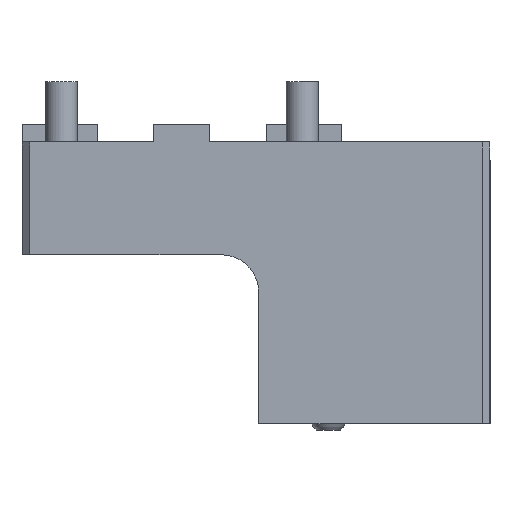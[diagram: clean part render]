
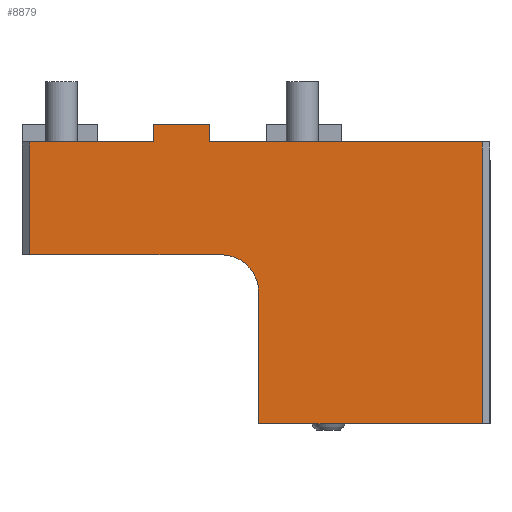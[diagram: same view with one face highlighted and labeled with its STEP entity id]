
A CAD part, front view. The second image highlights one B-rep face of the part: STEP entity #8879.
In plain terms, the highlighted planar face has unit normal (0, -1, 0).
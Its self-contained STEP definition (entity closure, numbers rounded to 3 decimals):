
#4046=CIRCLE('',#8453,10.);
#4342=ORIENTED_EDGE('',*,*,#5877,.T.);
#4343=ORIENTED_EDGE('',*,*,#5878,.F.);
#4344=ORIENTED_EDGE('',*,*,#5879,.F.);
#4345=ORIENTED_EDGE('',*,*,#5850,.T.);
#4346=ORIENTED_EDGE('',*,*,#5880,.F.);
#4347=ORIENTED_EDGE('',*,*,#5872,.F.);
#4348=ORIENTED_EDGE('',*,*,#5881,.T.);
#4349=ORIENTED_EDGE('',*,*,#5882,.F.);
#4350=ORIENTED_EDGE('',*,*,#5757,.T.);
#4351=ORIENTED_EDGE('',*,*,#5883,.T.);
#4352=ORIENTED_EDGE('',*,*,#5773,.T.);
#4922=VECTOR('',#6679,1.);
#4933=VECTOR('',#6704,1.);
#4992=VECTOR('',#6833,1.);
#5013=VECTOR('',#6876,1.);
#5016=VECTOR('',#6885,1.);
#5017=VECTOR('',#6886,1.);
#5018=VECTOR('',#6887,1.);
#5019=VECTOR('',#6888,1.);
#5020=VECTOR('',#6891,1.);
#5021=VECTOR('',#6892,1.);
#5201=LINE('',#7584,#4922);
#5212=LINE('',#7617,#4933);
#5271=LINE('',#7768,#4992);
#5292=LINE('',#7812,#5013);
#5295=LINE('',#7821,#5016);
#5296=LINE('',#7823,#5017);
#5297=LINE('',#7824,#5018);
#5298=LINE('',#7825,#5019);
#5299=LINE('',#7828,#5020);
#5300=LINE('',#7829,#5021);
#5478=VERTEX_POINT('',#7581);
#5479=VERTEX_POINT('',#7583);
#5493=VERTEX_POINT('',#7614);
#5494=VERTEX_POINT('',#7616);
#5550=VERTEX_POINT('',#7765);
#5551=VERTEX_POINT('',#7767);
#5562=VERTEX_POINT('',#7810);
#5563=VERTEX_POINT('',#7811);
#5566=VERTEX_POINT('',#7820);
#5567=VERTEX_POINT('',#7822);
#5568=VERTEX_POINT('',#7826);
#5757=EDGE_CURVE('',#5479,#5478,#5201,.T.);
#5773=EDGE_CURVE('',#5494,#5493,#5212,.T.);
#5850=EDGE_CURVE('',#5551,#5550,#5271,.T.);
#5872=EDGE_CURVE('',#5562,#5563,#5292,.T.);
#5877=EDGE_CURVE('',#5493,#5566,#5295,.T.);
#5878=EDGE_CURVE('',#5567,#5566,#5296,.T.);
#5879=EDGE_CURVE('',#5551,#5567,#5297,.T.);
#5880=EDGE_CURVE('',#5563,#5550,#5298,.T.);
#5881=EDGE_CURVE('',#5562,#5568,#4046,.T.);
#5882=EDGE_CURVE('',#5479,#5568,#5299,.T.);
#5883=EDGE_CURVE('',#5478,#5494,#5300,.T.);
#6175=EDGE_LOOP('',(#4342,#4343,#4344,#4345,#4346,#4347,#4348,#4349,#4350,
#4351,#4352));
#6430=FACE_BOUND('',#6175,.T.);
#6679=DIRECTION('',(59.5,0.,0.));
#6704=DIRECTION('',(-72.5,0.,0.));
#6833=DIRECTION('',(-33.,0.,0.));
#6876=DIRECTION('',(-51.,0.,0.));
#6883=DIRECTION('',(0.,-1.,0.));
#6884=DIRECTION('',(-1.,0.,0.));
#6885=DIRECTION('',(0.,0.,4.75));
#6886=DIRECTION('',(15.,0.,0.));
#6887=DIRECTION('',(0.,0.,4.75));
#6888=DIRECTION('',(0.,0.,30.));
#6889=DIRECTION('',(0.,1.,0.));
#6890=DIRECTION('',(0.,0.,-10.));
#6891=DIRECTION('',(0.,0.,35.));
#6892=DIRECTION('',(0.,0.,75.));
#7581=CARTESIAN_POINT('',(80.,-42.5,-64.));
#7583=CARTESIAN_POINT('',(20.5,-42.5,-64.));
#7584=CARTESIAN_POINT('',(20.5,-42.5,-64.));
#7614=CARTESIAN_POINT('',(7.5,-42.5,11.));
#7616=CARTESIAN_POINT('',(80.,-42.5,11.));
#7617=CARTESIAN_POINT('',(80.,-42.5,11.));
#7765=CARTESIAN_POINT('',(-40.5,-42.5,11.));
#7767=CARTESIAN_POINT('',(-7.5,-42.5,11.));
#7768=CARTESIAN_POINT('',(-7.5,-42.5,11.));
#7810=CARTESIAN_POINT('',(10.5,-42.5,-19.));
#7811=CARTESIAN_POINT('',(-40.5,-42.5,-19.));
#7812=CARTESIAN_POINT('',(10.5,-42.5,-19.));
#7819=CARTESIAN_POINT('',(7.5,-42.5,6.));
#7820=CARTESIAN_POINT('',(7.5,-42.5,15.75));
#7821=CARTESIAN_POINT('',(7.5,-42.5,11.));
#7822=CARTESIAN_POINT('',(-7.5,-42.5,15.75));
#7823=CARTESIAN_POINT('',(-7.5,-42.5,15.75));
#7824=CARTESIAN_POINT('',(-7.5,-42.5,11.));
#7825=CARTESIAN_POINT('',(-40.5,-42.5,-19.));
#7826=CARTESIAN_POINT('',(20.5,-42.5,-29.));
#7827=CARTESIAN_POINT('',(10.5,-42.5,-29.));
#7828=CARTESIAN_POINT('',(20.5,-42.5,-64.));
#7829=CARTESIAN_POINT('',(80.,-42.5,-64.));
#8452=AXIS2_PLACEMENT_3D('',#7819,#6883,#6884);
#8453=AXIS2_PLACEMENT_3D('',#7827,#6889,#6890);
#8727=PLANE('',#8452);
#8879=ADVANCED_FACE('',(#6430),#8727,.T.);
